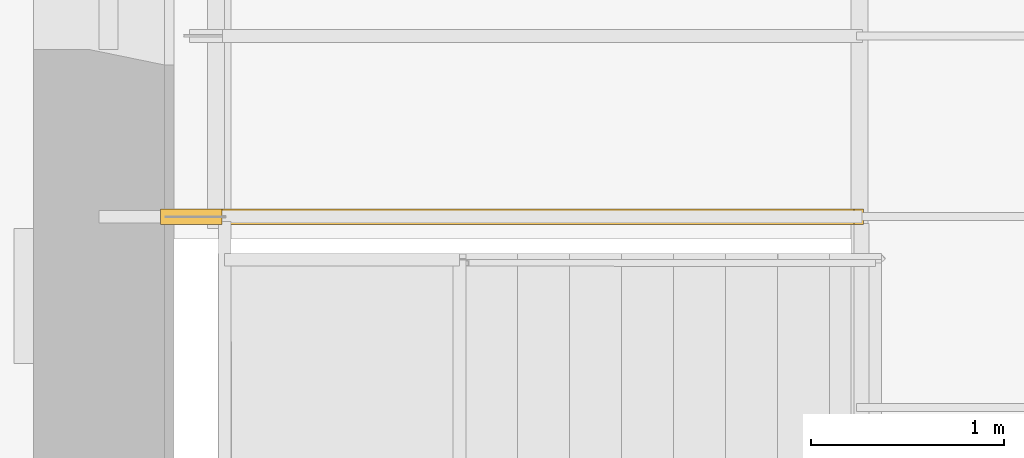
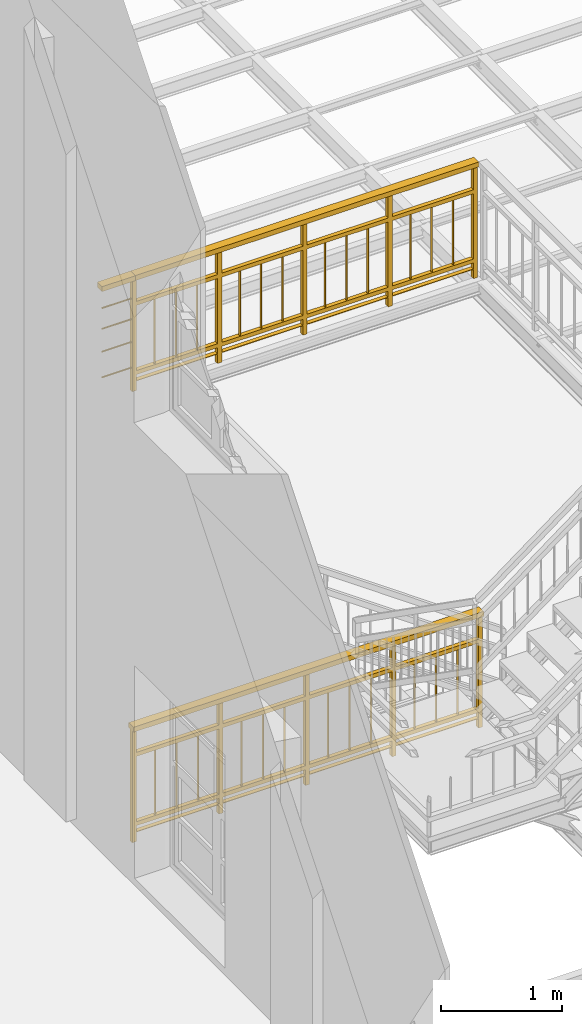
# One storey, part 28 of 33: 3 railings.
"""IFC2X3 building model written with IfcOpenShell, lengths in metres."""

from ifc_helpers import new_model, entity, si_unit, converted_unit, derived_unit, direction, frame, origin, place, context, subcontext, project, spatial, faceted_brep, element, save


model = new_model("IFC2X3")

# Units and contexts
model_context = context("Model", 3, precision=1e-05, world=origin(), true_north=direction((6.12303176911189e-17, 1.0)))
body_context = subcontext(model_context, "Body", "Model", "MODEL_VIEW")
ifc_project = project(units=[si_unit("LENGTHUNIT", "METRE"), si_unit("AREAUNIT", "SQUARE_METRE"), si_unit("VOLUMEUNIT", "CUBIC_METRE"), converted_unit("PLANEANGLEUNIT", "DEGREE", entity("IfcRatioMeasure", 0.0174532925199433), si_unit("PLANEANGLEUNIT", "RADIAN"), dimensions=[0, 0, 0, 0, 0, 0, 0]), si_unit("MASSUNIT", "GRAM", prefix="KILO"), derived_unit("MASSDENSITYUNIT", [(si_unit("MASSUNIT", "GRAM", prefix="KILO"), 1), (si_unit("LENGTHUNIT", "METRE"), -3)]), derived_unit("MOMENTOFINERTIAUNIT", [(si_unit("LENGTHUNIT", "METRE"), 4)]), si_unit("TIMEUNIT", "SECOND"), si_unit("FREQUENCYUNIT", "HERTZ"), si_unit("THERMODYNAMICTEMPERATUREUNIT", "DEGREE_CELSIUS"), derived_unit("THERMALTRANSMITTANCEUNIT", [(si_unit("MASSUNIT", "GRAM", prefix="KILO"), 1), (si_unit("THERMODYNAMICTEMPERATUREUNIT", "KELVIN"), -1), (si_unit("TIMEUNIT", "SECOND"), -3)]), derived_unit("VOLUMETRICFLOWRATEUNIT", [(si_unit("LENGTHUNIT", "METRE"), 3), (si_unit("TIMEUNIT", "SECOND"), -1)]), si_unit("ELECTRICCURRENTUNIT", "AMPERE"), si_unit("ELECTRICVOLTAGEUNIT", "VOLT"), si_unit("POWERUNIT", "WATT"), si_unit("FORCEUNIT", "NEWTON", prefix="KILO"), si_unit("ILLUMINANCEUNIT", "LUX"), si_unit("LUMINOUSFLUXUNIT", "LUMEN"), si_unit("LUMINOUSINTENSITYUNIT", "CANDELA"), derived_unit("USERDEFINED", [(si_unit("MASSUNIT", "GRAM", prefix="KILO"), -1), (si_unit("LENGTHUNIT", "METRE"), -2), (si_unit("TIMEUNIT", "SECOND"), 3), (si_unit("LUMINOUSFLUXUNIT", "LUMEN"), 1)]), derived_unit("LINEARVELOCITYUNIT", [(si_unit("LENGTHUNIT", "METRE"), 1), (si_unit("TIMEUNIT", "SECOND"), -1)]), si_unit("PRESSUREUNIT", "PASCAL"), derived_unit("USERDEFINED", [(si_unit("LENGTHUNIT", "METRE"), -2), (si_unit("MASSUNIT", "GRAM", prefix="KILO"), 1), (si_unit("TIMEUNIT", "SECOND"), -2)]), derived_unit("LINEARFORCEUNIT", [(si_unit("MASSUNIT", "GRAM", prefix="KILO"), 1), (si_unit("LENGTHUNIT", "METRE"), 1), (si_unit("TIMEUNIT", "SECOND"), -2), (si_unit("LENGTHUNIT", "METRE"), -1)]), derived_unit("PLANARFORCEUNIT", [(si_unit("MASSUNIT", "GRAM", prefix="KILO"), 1), (si_unit("LENGTHUNIT", "METRE"), 1), (si_unit("TIMEUNIT", "SECOND"), -2), (si_unit("LENGTHUNIT", "METRE"), -2)])], contexts=[model_context])

# Site, building, storey
site_placement = place(None, origin())
site = spatial("IfcSite", under=ifc_project, at=site_placement, Name="Superficie", CompositionType="ELEMENT")
building_placement = place(site_placement, origin())
building = spatial("IfcBuilding", under=site, at=building_placement, Name="Telegestiones", CompositionType="ELEMENT")
storey_placement = place(building_placement, frame((0.0, 0.0, 4.94)))
storey = spatial("IfcBuildingStorey", under=building, at=storey_placement, Name="Nivel 1_NPT", CompositionType="ELEMENT", Elevation=4.94)

# Railings
railing_1_placement = place(storey_placement, frame((6.31535495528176, 6.39560722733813, 0.0)))
element("IfcRailing", 1, at=railing_1_placement, inside=storey, Name="Barandilla:ARQ-BA-IN-118-Hi-Ba1", ObjectType="Barandilla:ARQ-BA-IN-118-Hi-Ba1", PredefinedType="NOTDEFINED", context=body_context, shape_type="Brep", body=[
    faceted_brep([(0.226841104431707, 0.0500000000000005, 0.2), (0.216841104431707, 0.0400000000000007, 0.2), (0.216841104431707, 0.0400000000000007, 0.859999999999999), (0.226841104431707, 0.0500000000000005, 0.859999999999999), (0.226841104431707, 0.0300000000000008, 0.2), (0.226841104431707, 0.0300000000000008, 0.859999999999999), (0.236841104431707, 0.0400000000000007, 0.2), (0.236841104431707, 0.0400000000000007, 0.859999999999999)], [[[0, 1, 2, 3]], [[2, 1, 4, 5]], [[5, 4, 6, 7]], [[7, 6, 0, 3]], [[3, 2, 5, 7]], [[0, 6, 4, 1]]]),
    faceted_brep([(0.433682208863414, 0.0500000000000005, 0.2), (0.423682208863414, 0.0400000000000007, 0.2), (0.423682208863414, 0.0400000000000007, 0.859999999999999), (0.433682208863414, 0.0500000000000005, 0.859999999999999), (0.433682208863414, 0.0300000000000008, 0.2), (0.433682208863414, 0.0300000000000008, 0.859999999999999), (0.443682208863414, 0.0400000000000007, 0.2), (0.443682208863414, 0.0400000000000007, 0.859999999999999)], [[[0, 1, 2, 3]], [[2, 1, 4, 5]], [[5, 4, 6, 7]], [[7, 6, 0, 3]], [[3, 2, 5, 7]], [[0, 6, 4, 1]]]),
    faceted_brep([(0.64052331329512, 0.0500000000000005, 0.2), (0.63052331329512, 0.0400000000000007, 0.2), (0.63052331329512, 0.0400000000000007, 0.859999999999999), (0.64052331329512, 0.0500000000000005, 0.859999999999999), (0.64052331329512, 0.0300000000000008, 0.2), (0.64052331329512, 0.0300000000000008, 0.859999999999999), (0.650523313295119, 0.0400000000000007, 0.2), (0.650523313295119, 0.0400000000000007, 0.859999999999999)], [[[0, 1, 2, 3]], [[2, 1, 4, 5]], [[5, 4, 6, 7]], [[7, 6, 0, 3]], [[3, 2, 5, 7]], [[0, 6, 4, 1]]]),
    faceted_brep([(0.867364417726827, 0.0200000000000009, 1.13), (0.867364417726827, 0.0200000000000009, 0.0), (0.867364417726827, 0.0600000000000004, 0.0), (0.867364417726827, 0.0600000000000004, 1.13), (0.827364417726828, 0.0600000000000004, 0.0), (0.827364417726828, 0.0600000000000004, 1.13), (0.827364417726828, 0.0200000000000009, 0.0), (0.827364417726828, 0.0200000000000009, 1.13)], [[[0, 1, 2, 3]], [[3, 2, 4, 5]], [[5, 4, 6, 7]], [[1, 0, 7, 6]], [[0, 3, 5, 7]], [[2, 1, 6, 4]]]),
    faceted_brep([(1.05420552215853, 0.0500000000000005, 0.2), (1.04420552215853, 0.0400000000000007, 0.2), (1.04420552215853, 0.0400000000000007, 0.859999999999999), (1.05420552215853, 0.0500000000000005, 0.859999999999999), (1.05420552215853, 0.0300000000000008, 0.2), (1.05420552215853, 0.0300000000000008, 0.859999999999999), (1.06420552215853, 0.0400000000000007, 0.2), (1.06420552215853, 0.0400000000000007, 0.859999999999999)], [[[0, 1, 2, 3]], [[2, 1, 4, 5]], [[5, 4, 6, 7]], [[7, 6, 0, 3]], [[3, 2, 5, 7]], [[0, 6, 4, 1]]]),
    faceted_brep([(1.26104662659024, 0.0500000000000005, 0.2), (1.25104662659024, 0.0400000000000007, 0.2), (1.25104662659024, 0.0400000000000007, 0.859999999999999), (1.26104662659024, 0.0500000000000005, 0.859999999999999), (1.26104662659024, 0.0300000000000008, 0.2), (1.26104662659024, 0.0300000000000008, 0.859999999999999), (1.27104662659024, 0.0400000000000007, 0.2), (1.27104662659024, 0.0400000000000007, 0.859999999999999)], [[[0, 1, 2, 3]], [[2, 1, 4, 5]], [[5, 4, 6, 7]], [[7, 6, 0, 3]], [[3, 2, 5, 7]], [[0, 6, 4, 1]]]),
    faceted_brep([(1.46788773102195, 0.0500000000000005, 0.2), (1.45788773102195, 0.0400000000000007, 0.2), (1.45788773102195, 0.0400000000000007, 0.859999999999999), (1.46788773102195, 0.0500000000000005, 0.859999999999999), (1.46788773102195, 0.0300000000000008, 0.2), (1.46788773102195, 0.0300000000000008, 0.859999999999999), (1.47788773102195, 0.0400000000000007, 0.2), (1.47788773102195, 0.0400000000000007, 0.859999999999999)], [[[0, 1, 2, 3]], [[2, 1, 4, 5]], [[5, 4, 6, 7]], [[7, 6, 0, 3]], [[3, 2, 5, 7]], [[0, 6, 4, 1]]]),
    faceted_brep([(1.69472883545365, 0.0200000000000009, 1.13), (1.69472883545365, 0.0200000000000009, 0.0), (1.69472883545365, 0.0600000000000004, 0.0), (1.69472883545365, 0.0600000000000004, 1.13), (1.65472883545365, 0.0600000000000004, 0.0), (1.65472883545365, 0.0600000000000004, 1.13), (1.65472883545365, 0.0200000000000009, 0.0), (1.65472883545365, 0.0200000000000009, 1.13)], [[[0, 1, 2, 3]], [[3, 2, 4, 5]], [[5, 4, 6, 7]], [[1, 0, 7, 6]], [[0, 3, 5, 7]], [[2, 1, 6, 4]]]),
    faceted_brep([(1.88156993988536, 0.0500000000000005, 0.2), (1.87156993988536, 0.0400000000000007, 0.2), (1.87156993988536, 0.0400000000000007, 0.859999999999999), (1.88156993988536, 0.0500000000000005, 0.859999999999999), (1.88156993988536, 0.0300000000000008, 0.2), (1.88156993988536, 0.0300000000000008, 0.859999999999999), (1.89156993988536, 0.0400000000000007, 0.2), (1.89156993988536, 0.0400000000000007, 0.859999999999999)], [[[0, 1, 2, 3]], [[2, 1, 4, 5]], [[5, 4, 6, 7]], [[7, 6, 0, 3]], [[3, 2, 5, 7]], [[0, 6, 4, 1]]]),
    faceted_brep([(2.08841104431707, 0.0500000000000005, 0.2), (2.07841104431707, 0.0400000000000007, 0.2), (2.07841104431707, 0.0400000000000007, 0.859999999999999), (2.08841104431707, 0.0500000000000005, 0.859999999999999), (2.08841104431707, 0.0300000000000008, 0.2), (2.08841104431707, 0.0300000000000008, 0.859999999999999), (2.09841104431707, 0.0400000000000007, 0.2), (2.09841104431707, 0.0400000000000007, 0.859999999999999)], [[[0, 1, 2, 3]], [[2, 1, 4, 5]], [[5, 4, 6, 7]], [[7, 6, 0, 3]], [[3, 2, 5, 7]], [[0, 6, 4, 1]]]),
    faceted_brep([(2.29525214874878, 0.0500000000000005, 0.2), (2.28525214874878, 0.0400000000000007, 0.2), (2.28525214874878, 0.0400000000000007, 0.859999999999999), (2.29525214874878, 0.0500000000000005, 0.859999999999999), (2.29525214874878, 0.0300000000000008, 0.2), (2.29525214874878, 0.0300000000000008, 0.859999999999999), (2.30525214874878, 0.0400000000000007, 0.2), (2.30525214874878, 0.0400000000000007, 0.859999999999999)], [[[0, 1, 2, 3]], [[2, 1, 4, 5]], [[5, 4, 6, 7]], [[7, 6, 0, 3]], [[3, 2, 5, 7]], [[0, 6, 4, 1]]]),
    faceted_brep([(2.52209325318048, 0.0200000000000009, 1.13), (2.52209325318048, 0.0200000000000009, 0.0), (2.52209325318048, 0.0600000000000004, 0.0), (2.52209325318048, 0.0600000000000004, 1.13), (2.48209325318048, 0.0600000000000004, 0.0), (2.48209325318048, 0.0600000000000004, 1.13), (2.48209325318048, 0.0200000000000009, 0.0), (2.48209325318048, 0.0200000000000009, 1.13)], [[[0, 1, 2, 3]], [[3, 2, 4, 5]], [[5, 4, 6, 7]], [[1, 0, 7, 6]], [[0, 3, 5, 7]], [[2, 1, 6, 4]]]),
    faceted_brep([(2.70893435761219, 0.0500000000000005, 0.2), (2.69893435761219, 0.0400000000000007, 0.2), (2.69893435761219, 0.0400000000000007, 0.859999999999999), (2.70893435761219, 0.0500000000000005, 0.859999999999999), (2.70893435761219, 0.0300000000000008, 0.2), (2.70893435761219, 0.0300000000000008, 0.859999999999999), (2.71893435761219, 0.0400000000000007, 0.2), (2.71893435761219, 0.0400000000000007, 0.859999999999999)], [[[0, 1, 2, 3]], [[2, 1, 4, 5]], [[5, 4, 6, 7]], [[7, 6, 0, 3]], [[3, 2, 5, 7]], [[0, 6, 4, 1]]]),
    faceted_brep([(2.9157754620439, 0.0500000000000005, 0.2), (2.9057754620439, 0.0400000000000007, 0.2), (2.9057754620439, 0.0400000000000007, 0.859999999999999), (2.9157754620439, 0.0500000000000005, 0.859999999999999), (2.9157754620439, 0.0300000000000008, 0.2), (2.9157754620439, 0.0300000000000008, 0.859999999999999), (2.92577546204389, 0.0400000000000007, 0.2), (2.92577546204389, 0.0400000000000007, 0.859999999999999)], [[[0, 1, 2, 3]], [[2, 1, 4, 5]], [[5, 4, 6, 7]], [[7, 6, 0, 3]], [[3, 2, 5, 7]], [[0, 6, 4, 1]]]),
    faceted_brep([(3.1226165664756, 0.0500000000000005, 0.2), (3.1126165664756, 0.0400000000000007, 0.2), (3.1126165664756, 0.0400000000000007, 0.859999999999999), (3.1226165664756, 0.0500000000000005, 0.859999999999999), (3.1226165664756, 0.0300000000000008, 0.2), (3.1226165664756, 0.0300000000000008, 0.859999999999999), (3.1326165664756, 0.0400000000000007, 0.2), (3.1326165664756, 0.0400000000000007, 0.859999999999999)], [[[0, 1, 2, 3]], [[2, 1, 4, 5]], [[5, 4, 6, 7]], [[7, 6, 0, 3]], [[3, 2, 5, 7]], [[0, 6, 4, 1]]]),
    faceted_brep([(0.0399999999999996, 0.0200000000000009, 1.13), (0.0399999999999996, 0.0200000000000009, 0.0), (0.0399999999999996, 0.0600000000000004, 0.0), (0.0399999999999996, 0.0600000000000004, 1.13), (0.0, 0.0600000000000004, 0.0), (0.0, 0.0600000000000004, 1.13), (0.0, 0.0200000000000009, 0.0), (0.0, 0.0200000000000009, 1.13)], [[[0, 1, 2, 3]], [[3, 2, 4, 5]], [[5, 4, 6, 7]], [[1, 0, 7, 6]], [[0, 3, 5, 7]], [[2, 1, 6, 4]]]),
    faceted_brep([(3.34945767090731, 0.0200000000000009, 1.13), (3.34945767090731, 0.0200000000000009, 0.0), (3.34945767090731, 0.0600000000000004, 0.0), (3.34945767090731, 0.0600000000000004, 1.13), (3.30945767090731, 0.0600000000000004, 0.0), (3.30945767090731, 0.0600000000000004, 1.13), (3.30945767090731, 0.0200000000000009, 0.0), (3.30945767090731, 0.0200000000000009, 1.13)], [[[0, 1, 2, 3]], [[3, 2, 4, 5]], [[5, 4, 6, 7]], [[1, 0, 7, 6]], [[0, 3, 5, 7]], [[2, 1, 6, 4]]]),
    faceted_brep([(3.32945767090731, 0.0600000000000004, 0.9), (3.32945767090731, 0.0200000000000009, 0.9), (3.32945767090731, 0.0200000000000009, 0.860000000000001), (3.32945767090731, 0.0600000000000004, 0.860000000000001), (0.0199999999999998, 0.0600000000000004, 0.9), (0.0199999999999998, 0.0600000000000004, 0.860000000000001), (0.0199999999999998, 0.0200000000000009, 0.860000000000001), (0.0199999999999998, 0.0200000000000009, 0.9)], [[[0, 1, 2, 3]], [[4, 5, 6, 7]], [[1, 0, 4, 7]], [[2, 1, 7, 6]], [[3, 2, 6, 5]], [[0, 3, 5, 4]]]),
    faceted_brep([(3.32945767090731, 0.0600000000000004, 0.2), (3.32945767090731, 0.0200000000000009, 0.2), (3.32945767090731, 0.0200000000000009, 0.16), (3.32945767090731, 0.0600000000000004, 0.16), (0.0199999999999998, 0.0600000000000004, 0.2), (0.0199999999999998, 0.0600000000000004, 0.16), (0.0199999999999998, 0.0200000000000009, 0.16), (0.0199999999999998, 0.0200000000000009, 0.2)], [[[0, 1, 2, 3]], [[4, 5, 6, 7]], [[1, 0, 4, 7]], [[2, 1, 7, 6]], [[3, 2, 6, 5]], [[0, 3, 5, 4]]]),
    faceted_brep([(3.32945767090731, 0.0600000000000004, 0.1), (3.32945767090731, 0.0200000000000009, 0.1), (3.32945767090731, 0.0200000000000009, 0.0940000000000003), (3.32945767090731, 0.0600000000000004, 0.0940000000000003), (0.0199999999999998, 0.0600000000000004, 0.1), (0.0199999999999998, 0.0600000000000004, 0.0940000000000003), (0.0199999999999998, 0.0200000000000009, 0.0940000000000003), (0.0199999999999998, 0.0200000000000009, 0.1)], [[[0, 1, 2, 3]], [[4, 5, 6, 7]], [[2, 1, 7, 6]], [[1, 0, 4, 7]], [[3, 2, 6, 5]], [[0, 3, 5, 4]]]),
    faceted_brep([(3.32945767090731, 0.0, 1.13), (3.32945767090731, 0.0, 1.18), (0.0199999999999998, 0.0, 1.18), (0.0199999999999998, 0.0, 1.13), (3.32945767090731, 0.0800000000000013, 1.13), (0.0199999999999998, 0.0800000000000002, 1.13), (3.32945767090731, 0.0800000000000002, 1.18), (0.0199999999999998, 0.0800000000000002, 1.18), (0.0, 0.0, 1.18), (0.0, 0.0800000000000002, 1.18), (0.0, 0.0800000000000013, 1.13), (0.0, 0.0, 1.13), (3.34945767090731, 0.0, 1.18), (3.34945767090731, 0.0, 1.13), (3.34945767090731, 0.0800000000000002, 1.13), (3.34945767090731, 0.0800000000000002, 1.18)], [[[0, 1, 2, 3]], [[4, 0, 3, 5]], [[6, 4, 5, 7]], [[1, 6, 7, 2]], [[8, 9, 10, 11]], [[3, 2, 8, 11]], [[5, 3, 11, 10]], [[7, 5, 10, 9]], [[2, 7, 9, 8]], [[12, 13, 14, 15]], [[13, 12, 1, 0]], [[14, 13, 0, 4]], [[15, 14, 4, 6]], [[12, 15, 6, 1]]]),
])
railing_2_placement = place(storey_placement, frame((6.0142897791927, 6.39460722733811, 4.78340472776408)))
element("IfcRailing", 2, at=railing_2_placement, inside=storey, Name="Barandilla:ARQ-BA-IN-HiGal-Varillas 2", ObjectType="Barandilla:ARQ-BA-IN-HiGal-Varillas 2", PredefinedType="NOTDEFINED", context=body_context, shape_type="Brep", body=[
    faceted_brep([(0.3, 0.0437500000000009, 0.715590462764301), (0.3, 0.0362500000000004, 0.715590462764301), (0.3, 0.0325000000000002, 0.709095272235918), (0.3, 0.0362500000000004, 0.702600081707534), (0.3, 0.0437500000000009, 0.702600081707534), (0.3, 0.0475000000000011, 0.709095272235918), (0.0199999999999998, 0.0475000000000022, 0.709095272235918), (0.0199999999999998, 0.043750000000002, 0.702600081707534), (0.0199999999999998, 0.0362500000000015, 0.702600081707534), (0.0199999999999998, 0.0325000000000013, 0.709095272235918), (0.0199999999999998, 0.0362500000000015, 0.715590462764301), (0.0199999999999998, 0.043750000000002, 0.715590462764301)], [[[0, 1, 2, 3, 4, 5]], [[6, 7, 8, 9, 10, 11]], [[9, 8, 3, 2]], [[8, 7, 4, 3]], [[7, 6, 5, 4]], [[6, 11, 0, 5]], [[11, 10, 1, 0]], [[10, 9, 2, 1]]]),
    faceted_brep([(0.3, 0.0437500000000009, 0.505590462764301), (0.3, 0.0362500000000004, 0.505590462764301), (0.3, 0.0325000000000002, 0.499095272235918), (0.3, 0.0362500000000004, 0.492600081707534), (0.3, 0.0437500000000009, 0.492600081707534), (0.3, 0.0475000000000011, 0.499095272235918), (0.0199999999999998, 0.0475000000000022, 0.499095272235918), (0.0199999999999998, 0.043750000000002, 0.492600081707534), (0.0199999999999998, 0.0362500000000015, 0.492600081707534), (0.0199999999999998, 0.0325000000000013, 0.499095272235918), (0.0199999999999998, 0.0362500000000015, 0.505590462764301), (0.0199999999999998, 0.043750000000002, 0.505590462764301)], [[[0, 1, 2, 3, 4, 5]], [[6, 7, 8, 9, 10, 11]], [[9, 8, 3, 2]], [[8, 7, 4, 3]], [[7, 6, 5, 4]], [[6, 11, 0, 5]], [[11, 10, 1, 0]], [[10, 9, 2, 1]]]),
    faceted_brep([(0.3, 0.0437500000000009, 0.275590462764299), (0.3, 0.0362500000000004, 0.275590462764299), (0.3, 0.0325000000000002, 0.269095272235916), (0.3, 0.0362500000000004, 0.262600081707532), (0.3, 0.0437500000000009, 0.262600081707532), (0.3, 0.0475000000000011, 0.269095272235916), (0.0199999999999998, 0.0475000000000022, 0.269095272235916), (0.0199999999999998, 0.043750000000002, 0.262600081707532), (0.0199999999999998, 0.0362500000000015, 0.262600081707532), (0.0199999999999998, 0.0325000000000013, 0.269095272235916), (0.0199999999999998, 0.0362500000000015, 0.275590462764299), (0.0199999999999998, 0.043750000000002, 0.275590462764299)], [[[0, 1, 2, 3, 4, 5]], [[6, 7, 8, 9, 10, 11]], [[9, 8, 3, 2]], [[8, 7, 4, 3]], [[7, 6, 5, 4]], [[6, 11, 0, 5]], [[11, 10, 1, 0]], [[10, 9, 2, 1]]]),
    faceted_brep([(0.3, 0.0437500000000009, 0.0155904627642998), (0.3, 0.0362500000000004, 0.0155904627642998), (0.3, 0.0325000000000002, 0.00909527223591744), (0.3, 0.0362500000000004, 0.00260008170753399), (0.3, 0.0437500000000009, 0.00260008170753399), (0.3, 0.0475000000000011, 0.00909527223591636), (0.0199999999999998, 0.0475000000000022, 0.00909527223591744), (0.0199999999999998, 0.043750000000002, 0.00260008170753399), (0.0199999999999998, 0.0362500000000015, 0.00260008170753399), (0.0199999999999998, 0.0325000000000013, 0.00909527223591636), (0.0199999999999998, 0.0362500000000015, 0.0155904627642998), (0.0199999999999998, 0.043750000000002, 0.0155904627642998)], [[[0, 1, 2, 3, 4, 5]], [[6, 7, 8, 9, 10, 11]], [[9, 8, 3, 2]], [[8, 7, 4, 3]], [[7, 6, 5, 4]], [[6, 11, 0, 5]], [[11, 10, 1, 0]], [[10, 9, 2, 1]]]),
    faceted_brep([(0.32, 0.0, 0.956595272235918), (0.32, 0.0, 0.906595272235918), (0.32, 0.0800000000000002, 0.906595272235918), (0.32, 0.0800000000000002, 0.956595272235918), (0.3, 0.0, 0.956595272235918), (0.3, 0.0, 0.906595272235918), (0.3, 0.0800000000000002, 0.906595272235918), (0.3, 0.0800000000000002, 0.956595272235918), (0.0199999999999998, 0.0, 0.956595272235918), (0.0199999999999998, 0.0, 0.906595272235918), (0.0199999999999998, 0.0800000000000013, 0.906595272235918), (0.0199999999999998, 0.0800000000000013, 0.956595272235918), (0.0, 0.0, 0.956595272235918), (0.0, 0.0800000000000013, 0.956595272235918), (0.0, 0.0800000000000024, 0.906595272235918), (0.0, 0.0, 0.906595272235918)], [[[0, 1, 2, 3]], [[1, 0, 4, 5]], [[2, 1, 5, 6]], [[3, 2, 6, 7]], [[0, 3, 7, 4]], [[5, 4, 8, 9]], [[6, 5, 9, 10]], [[7, 6, 10, 11]], [[4, 7, 11, 8]], [[12, 13, 14, 15]], [[9, 8, 12, 15]], [[10, 9, 15, 14]], [[11, 10, 14, 13]], [[8, 11, 13, 12]]]),
])
railing_3_placement = place(storey_placement, frame((6.31481262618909, 6.39560722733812, 4.56)))
element("IfcRailing", 3, at=railing_3_placement, inside=storey, Name="Barandilla:ARQ-BA-IN-118-Hi-Ba1", ObjectType="Barandilla:ARQ-BA-IN-118-Hi-Ba1", PredefinedType="NOTDEFINED", context=body_context, shape_type="Brep", body=[
    faceted_brep([(3.07812499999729, 0.0300000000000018, 0.2), (3.08812499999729, 0.0400000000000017, 0.2), (3.08812499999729, 0.0400000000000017, 0.859999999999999), (3.07812499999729, 0.0300000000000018, 0.859999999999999), (3.07812499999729, 0.0500000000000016, 0.2), (3.07812499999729, 0.0500000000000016, 0.859999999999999), (3.06812499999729, 0.0400000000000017, 0.2), (3.06812499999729, 0.0400000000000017, 0.859999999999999)], [[[0, 1, 2, 3]], [[2, 1, 4, 5]], [[5, 4, 6, 7]], [[7, 6, 0, 3]], [[3, 2, 5, 7]], [[0, 6, 4, 1]]]),
    faceted_brep([(2.87424999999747, 0.0300000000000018, 0.2), (2.88424999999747, 0.0400000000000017, 0.2), (2.88424999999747, 0.0400000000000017, 0.859999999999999), (2.87424999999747, 0.0300000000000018, 0.859999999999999), (2.87424999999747, 0.0500000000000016, 0.2), (2.87424999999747, 0.0500000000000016, 0.859999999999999), (2.86424999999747, 0.0400000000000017, 0.2), (2.86424999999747, 0.0400000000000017, 0.859999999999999)], [[[0, 1, 2, 3]], [[2, 1, 4, 5]], [[5, 4, 6, 7]], [[7, 6, 0, 3]], [[3, 2, 5, 7]], [[0, 6, 4, 1]]]),
    faceted_brep([(2.67037499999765, 0.0300000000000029, 0.2), (2.68037499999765, 0.0400000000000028, 0.2), (2.68037499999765, 0.0400000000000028, 0.859999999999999), (2.67037499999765, 0.0300000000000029, 0.859999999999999), (2.67037499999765, 0.0500000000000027, 0.2), (2.67037499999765, 0.0500000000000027, 0.859999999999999), (2.66037499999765, 0.0400000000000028, 0.2), (2.66037499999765, 0.0400000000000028, 0.859999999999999)], [[[0, 1, 2, 3]], [[2, 1, 4, 5]], [[5, 4, 6, 7]], [[7, 6, 0, 3]], [[3, 2, 5, 7]], [[0, 6, 4, 1]]]),
    faceted_brep([(2.44649999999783, 0.0600000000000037, 1.13), (2.44649999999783, 0.0600000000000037, 0.0), (2.44649999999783, 0.0200000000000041, 0.0), (2.44649999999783, 0.0200000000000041, 1.13), (2.48649999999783, 0.0200000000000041, 0.0), (2.48649999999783, 0.0200000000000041, 1.13), (2.48649999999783, 0.0600000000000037, 0.0), (2.48649999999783, 0.0600000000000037, 1.13)], [[[0, 1, 2, 3]], [[3, 2, 4, 5]], [[5, 4, 6, 7]], [[1, 0, 7, 6]], [[0, 3, 5, 7]], [[2, 1, 6, 4]]]),
    faceted_brep([(2.26262499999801, 0.030000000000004, 0.2), (2.27262499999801, 0.0400000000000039, 0.2), (2.27262499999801, 0.0400000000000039, 0.859999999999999), (2.26262499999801, 0.030000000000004, 0.859999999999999), (2.26262499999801, 0.0500000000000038, 0.2), (2.26262499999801, 0.0500000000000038, 0.859999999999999), (2.25262499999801, 0.0400000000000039, 0.2), (2.25262499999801, 0.0400000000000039, 0.859999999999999)], [[[0, 1, 2, 3]], [[2, 1, 4, 5]], [[5, 4, 6, 7]], [[7, 6, 0, 3]], [[3, 2, 5, 7]], [[0, 6, 4, 1]]]),
    faceted_brep([(2.05874999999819, 0.0300000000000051, 0.2), (2.06874999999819, 0.040000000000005, 0.2), (2.06874999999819, 0.040000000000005, 0.859999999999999), (2.05874999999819, 0.0300000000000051, 0.859999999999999), (2.05874999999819, 0.0500000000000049, 0.2), (2.05874999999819, 0.0500000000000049, 0.859999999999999), (2.04874999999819, 0.040000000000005, 0.2), (2.04874999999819, 0.040000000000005, 0.859999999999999)], [[[0, 1, 2, 3]], [[2, 1, 4, 5]], [[5, 4, 6, 7]], [[7, 6, 0, 3]], [[3, 2, 5, 7]], [[0, 6, 4, 1]]]),
    faceted_brep([(1.85487499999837, 0.0300000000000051, 0.2), (1.86487499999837, 0.040000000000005, 0.2), (1.86487499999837, 0.040000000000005, 0.859999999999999), (1.85487499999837, 0.0300000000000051, 0.859999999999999), (1.85487499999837, 0.0500000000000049, 0.2), (1.85487499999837, 0.0500000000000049, 0.859999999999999), (1.84487499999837, 0.040000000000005, 0.2), (1.84487499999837, 0.040000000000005, 0.859999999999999)], [[[0, 1, 2, 3]], [[2, 1, 4, 5]], [[5, 4, 6, 7]], [[7, 6, 0, 3]], [[3, 2, 5, 7]], [[0, 6, 4, 1]]]),
    faceted_brep([(1.63099999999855, 0.0600000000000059, 1.13), (1.63099999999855, 0.0600000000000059, 0.0), (1.63099999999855, 0.0200000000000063, 0.0), (1.63099999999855, 0.0200000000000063, 1.13), (1.67099999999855, 0.0200000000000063, 0.0), (1.67099999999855, 0.0200000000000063, 1.13), (1.67099999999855, 0.0600000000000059, 0.0), (1.67099999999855, 0.0600000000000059, 1.13)], [[[0, 1, 2, 3]], [[3, 2, 4, 5]], [[5, 4, 6, 7]], [[1, 0, 7, 6]], [[0, 3, 5, 7]], [[2, 1, 6, 4]]]),
    faceted_brep([(1.44712499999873, 0.0300000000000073, 0.2), (1.45712499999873, 0.0400000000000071, 0.2), (1.45712499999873, 0.0400000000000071, 0.859999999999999), (1.44712499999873, 0.0300000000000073, 0.859999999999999), (1.44712499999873, 0.050000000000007, 0.2), (1.44712499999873, 0.050000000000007, 0.859999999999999), (1.43712499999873, 0.0400000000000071, 0.2), (1.43712499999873, 0.0400000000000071, 0.859999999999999)], [[[0, 1, 2, 3]], [[2, 1, 4, 5]], [[5, 4, 6, 7]], [[7, 6, 0, 3]], [[3, 2, 5, 7]], [[0, 6, 4, 1]]]),
    faceted_brep([(1.24324999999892, 0.0300000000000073, 0.2), (1.25324999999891, 0.0400000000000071, 0.2), (1.25324999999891, 0.0400000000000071, 0.859999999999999), (1.24324999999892, 0.0300000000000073, 0.859999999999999), (1.24324999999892, 0.050000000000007, 0.2), (1.24324999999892, 0.050000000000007, 0.859999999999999), (1.23324999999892, 0.0400000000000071, 0.2), (1.23324999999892, 0.0400000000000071, 0.859999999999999)], [[[0, 1, 2, 3]], [[2, 1, 4, 5]], [[5, 4, 6, 7]], [[7, 6, 0, 3]], [[3, 2, 5, 7]], [[0, 6, 4, 1]]]),
    faceted_brep([(1.0393749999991, 0.0300000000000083, 0.2), (1.0493749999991, 0.0400000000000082, 0.2), (1.0493749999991, 0.0400000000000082, 0.859999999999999), (1.0393749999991, 0.0300000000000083, 0.859999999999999), (1.0393749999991, 0.0500000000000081, 0.2), (1.0393749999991, 0.0500000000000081, 0.859999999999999), (1.0293749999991, 0.0400000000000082, 0.2), (1.0293749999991, 0.0400000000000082, 0.859999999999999)], [[[0, 1, 2, 3]], [[2, 1, 4, 5]], [[5, 4, 6, 7]], [[7, 6, 0, 3]], [[3, 2, 5, 7]], [[0, 6, 4, 1]]]),
    faceted_brep([(0.815499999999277, 0.0600000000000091, 1.13), (0.815499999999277, 0.0600000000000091, 0.0), (0.815499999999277, 0.0200000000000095, 0.0), (0.815499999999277, 0.0200000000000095, 1.13), (0.855499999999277, 0.0200000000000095, 0.0), (0.855499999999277, 0.0200000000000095, 1.13), (0.855499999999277, 0.0600000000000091, 0.0), (0.855499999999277, 0.0600000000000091, 1.13)], [[[0, 1, 2, 3]], [[3, 2, 4, 5]], [[5, 4, 6, 7]], [[1, 0, 7, 6]], [[0, 3, 5, 7]], [[2, 1, 6, 4]]]),
    faceted_brep([(0.631624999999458, 0.0300000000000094, 0.2), (0.641624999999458, 0.0400000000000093, 0.2), (0.641624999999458, 0.0400000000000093, 0.859999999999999), (0.631624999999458, 0.0300000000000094, 0.859999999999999), (0.631624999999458, 0.0500000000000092, 0.2), (0.631624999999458, 0.0500000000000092, 0.859999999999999), (0.621624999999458, 0.0400000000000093, 0.2), (0.621624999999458, 0.0400000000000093, 0.859999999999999)], [[[0, 1, 2, 3]], [[2, 1, 4, 5]], [[5, 4, 6, 7]], [[7, 6, 0, 3]], [[3, 2, 5, 7]], [[0, 6, 4, 1]]]),
    faceted_brep([(0.427749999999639, 0.0300000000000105, 0.2), (0.437749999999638, 0.0400000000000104, 0.2), (0.437749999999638, 0.0400000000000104, 0.859999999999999), (0.427749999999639, 0.0300000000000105, 0.859999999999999), (0.427749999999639, 0.0500000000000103, 0.2), (0.427749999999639, 0.0500000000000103, 0.859999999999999), (0.417749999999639, 0.0400000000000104, 0.2), (0.417749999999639, 0.0400000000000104, 0.859999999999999)], [[[0, 1, 2, 3]], [[2, 1, 4, 5]], [[5, 4, 6, 7]], [[7, 6, 0, 3]], [[3, 2, 5, 7]], [[0, 6, 4, 1]]]),
    faceted_brep([(0.223874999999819, 0.0300000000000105, 0.2), (0.233874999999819, 0.0400000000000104, 0.2), (0.233874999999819, 0.0400000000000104, 0.859999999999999), (0.223874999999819, 0.0300000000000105, 0.859999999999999), (0.223874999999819, 0.0500000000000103, 0.2), (0.223874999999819, 0.0500000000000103, 0.859999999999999), (0.213874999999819, 0.0400000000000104, 0.2), (0.213874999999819, 0.0400000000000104, 0.859999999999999)], [[[0, 1, 2, 3]], [[2, 1, 4, 5]], [[5, 4, 6, 7]], [[7, 6, 0, 3]], [[3, 2, 5, 7]], [[0, 6, 4, 1]]]),
    faceted_brep([(3.26199999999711, 0.0600000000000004, 1.13), (3.26199999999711, 0.0600000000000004, 0.0), (3.26199999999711, 0.0200000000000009, 0.0), (3.26199999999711, 0.0200000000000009, 1.13), (3.30199999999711, 0.0200000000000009, 0.0), (3.30199999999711, 0.0200000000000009, 1.13), (3.30199999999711, 0.0600000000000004, 0.0), (3.30199999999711, 0.0600000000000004, 1.13)], [[[0, 1, 2, 3]], [[3, 2, 4, 5]], [[5, 4, 6, 7]], [[1, 0, 7, 6]], [[0, 3, 5, 7]], [[2, 1, 6, 4]]]),
    faceted_brep([(0.0, 0.0600000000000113, 1.13), (0.0, 0.0600000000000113, 0.0), (0.0, 0.0200000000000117, 0.0), (0.0, 0.0200000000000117, 1.13), (0.0399999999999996, 0.0200000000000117, 0.0), (0.0399999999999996, 0.0200000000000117, 1.13), (0.0399999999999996, 0.0600000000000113, 0.0), (0.0399999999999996, 0.0600000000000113, 1.13)], [[[0, 1, 2, 3]], [[3, 2, 4, 5]], [[5, 4, 6, 7]], [[1, 0, 7, 6]], [[0, 3, 5, 7]], [[2, 1, 6, 4]]]),
    faceted_brep([(0.0199999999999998, 0.0200000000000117, 0.899999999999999), (0.0199999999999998, 0.0600000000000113, 0.899999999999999), (0.0199999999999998, 0.0600000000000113, 0.859999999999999), (0.0199999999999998, 0.0200000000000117, 0.859999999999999), (3.28199999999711, 0.0200000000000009, 0.899999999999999), (3.28199999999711, 0.0200000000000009, 0.859999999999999), (3.28199999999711, 0.0600000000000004, 0.859999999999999), (3.28199999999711, 0.0600000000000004, 0.899999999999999)], [[[0, 1, 2, 3]], [[4, 5, 6, 7]], [[1, 0, 4, 7]], [[2, 1, 7, 6]], [[3, 2, 6, 5]], [[0, 3, 5, 4]]]),
    faceted_brep([(0.0199999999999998, 0.0200000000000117, 0.2), (0.0199999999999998, 0.0600000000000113, 0.2), (0.0199999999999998, 0.0600000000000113, 0.16), (0.0199999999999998, 0.0200000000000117, 0.16), (3.28199999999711, 0.0200000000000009, 0.2), (3.28199999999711, 0.0200000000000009, 0.16), (3.28199999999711, 0.0600000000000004, 0.16), (3.28199999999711, 0.0600000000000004, 0.2)], [[[0, 1, 2, 3]], [[4, 5, 6, 7]], [[1, 0, 4, 7]], [[2, 1, 7, 6]], [[3, 2, 6, 5]], [[0, 3, 5, 4]]]),
    faceted_brep([(0.0199999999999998, 0.0200000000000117, 0.1), (0.0199999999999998, 0.0600000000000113, 0.1), (0.0199999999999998, 0.0600000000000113, 0.0940000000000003), (0.0199999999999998, 0.0200000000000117, 0.0940000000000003), (3.28199999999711, 0.0200000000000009, 0.1), (3.28199999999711, 0.0200000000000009, 0.0940000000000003), (3.28199999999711, 0.0600000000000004, 0.0940000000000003), (3.28199999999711, 0.0600000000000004, 0.1)], [[[0, 1, 2, 3]], [[4, 5, 6, 7]], [[1, 0, 4, 7]], [[2, 1, 7, 6]], [[3, 2, 6, 5]], [[0, 3, 5, 4]]]),
    faceted_brep([(0.0, 0.080000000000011, 1.18), (0.0, 0.080000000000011, 1.13), (0.0, 0.0, 1.13), (0.0, 0.0, 1.18), (0.0199999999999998, 0.080000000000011, 1.18), (0.0199999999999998, 0.080000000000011, 1.13), (0.0199999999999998, 0.0, 1.13), (0.0199999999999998, 0.0, 1.18), (3.28199999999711, 0.0800000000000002, 1.18), (3.28199999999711, 0.0800000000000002, 1.13), (3.28199999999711, 0.0, 1.13), (3.28199999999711, 0.0, 1.18), (3.30199999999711, 0.0800000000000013, 1.18), (3.30199999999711, 0.0, 1.18), (3.30199999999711, 0.0, 1.13), (3.30199999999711, 0.0800000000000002, 1.13)], [[[0, 1, 2, 3]], [[1, 0, 4, 5]], [[2, 1, 5, 6]], [[3, 2, 6, 7]], [[0, 3, 7, 4]], [[5, 4, 8, 9]], [[6, 5, 9, 10]], [[7, 6, 10, 11]], [[4, 7, 11, 8]], [[12, 13, 14, 15]], [[9, 8, 12, 15]], [[10, 9, 15, 14]], [[11, 10, 14, 13]], [[8, 11, 13, 12]]]),
])

save(model, "model.ifc")
